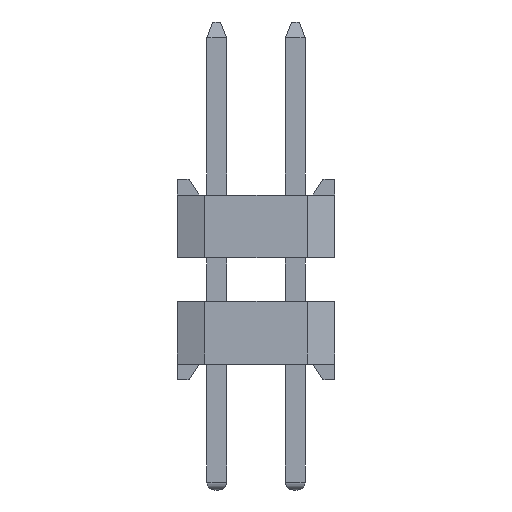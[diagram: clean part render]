
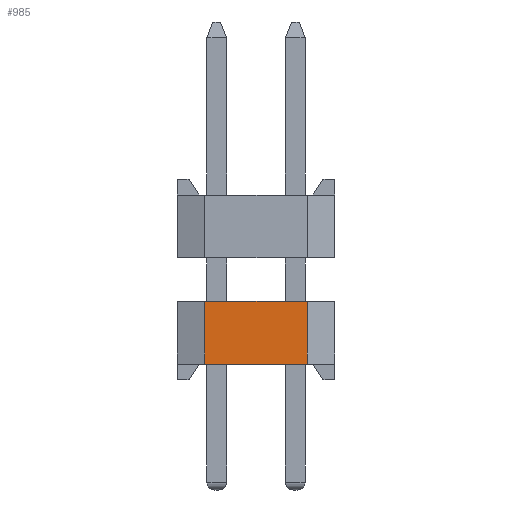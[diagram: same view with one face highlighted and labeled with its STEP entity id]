
A CAD part, left-side view. The second image highlights one B-rep face of the part: STEP entity #985.
In plain terms, the highlighted planar face has unit normal (-1, 0, 0).
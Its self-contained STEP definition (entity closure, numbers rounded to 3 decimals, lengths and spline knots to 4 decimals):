
#985=ADVANCED_FACE('',(#6169),#3729,.T.);
#3729=PLANE('',#51702);
#6169=FACE_OUTER_BOUND('',#8989,.T.);
#8989=EDGE_LOOP('',(#12760,#12761,#12762,#12763));
#12760=ORIENTED_EDGE('',*,*,#31602,.T.);
#12761=ORIENTED_EDGE('',*,*,#31603,.F.);
#12762=ORIENTED_EDGE('',*,*,#31604,.F.);
#12763=ORIENTED_EDGE('',*,*,#31250,.F.);
#26682=VERTEX_POINT('',#68596);
#26683=VERTEX_POINT('',#68597);
#26996=VERTEX_POINT('',#69264);
#26997=VERTEX_POINT('',#69266);
#31250=EDGE_CURVE('',#26682,#26683,#38406,.T.);
#31602=EDGE_CURVE('',#26682,#26996,#38758,.T.);
#31603=EDGE_CURVE('',#26997,#26996,#38759,.T.);
#31604=EDGE_CURVE('',#26683,#26997,#38760,.T.);
#38406=LINE('',#68595,#45258);
#38758=LINE('',#69263,#45610);
#38759=LINE('',#69265,#45611);
#38760=LINE('',#69267,#45612);
#45258=VECTOR('',#55235,1.);
#45610=VECTOR('',#55591,1.);
#45611=VECTOR('',#55592,1.);
#45612=VECTOR('',#55593,1.);
#51702=AXIS2_PLACEMENT_3D('',#69268,#55594,#55595);
#55235=DIRECTION('',(0.,-1.,0.));
#55591=DIRECTION('',(0.,0.,-1.));
#55592=DIRECTION('',(0.,1.,0.));
#55593=DIRECTION('',(0.,0.,-1.));
#55594=DIRECTION('',(-1.,0.,0.));
#55595=DIRECTION('',(0.,0.,1.));
#68595=CARTESIAN_POINT('',(0.,3.,1.6));
#68596=CARTESIAN_POINT('',(0.,3.3,1.6));
#68597=CARTESIAN_POINT('',(0.,0.7,1.6));
#69263=CARTESIAN_POINT('',(0.,3.3,0.));
#69264=CARTESIAN_POINT('',(0.,3.3,0.));
#69265=CARTESIAN_POINT('',(0.,3.,0.));
#69266=CARTESIAN_POINT('',(0.,0.7,0.));
#69267=CARTESIAN_POINT('',(0.,0.7,0.));
#69268=CARTESIAN_POINT('',(0.,3.,0.));
